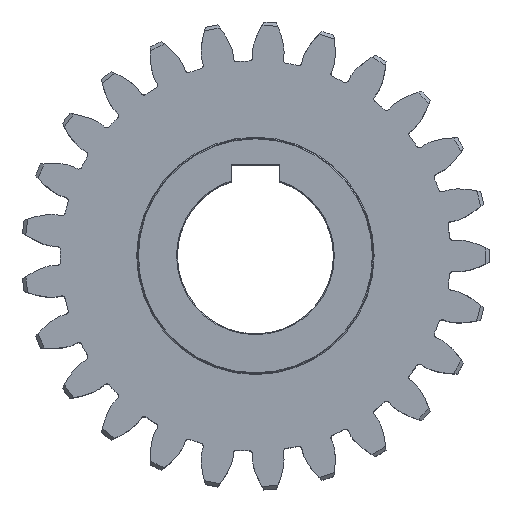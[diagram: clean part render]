
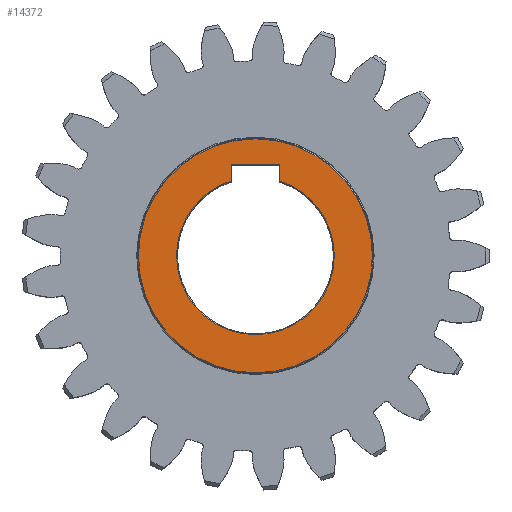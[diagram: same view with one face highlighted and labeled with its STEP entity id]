
A CAD part, top view. The second image highlights one B-rep face of the part: STEP entity #14372.
In plain terms, the highlighted planar face has unit normal (0, 0, 1).
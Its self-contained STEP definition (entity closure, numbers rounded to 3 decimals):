
#31 = CARTESIAN_POINT ( 'NONE',  ( -33.75, 0., 30. ) ) ;
#102 = LINE ( 'NONE', #13449, #8819 ) ;
#478 = DIRECTION ( 'NONE',  ( 0., 0., 1. ) ) ;
#525 = LINE ( 'NONE', #7413, #9568 ) ;
#626 = DIRECTION ( 'NONE',  ( 0., 0., 1. ) ) ;
#865 = DIRECTION ( 'NONE',  ( 1., 0., 0. ) ) ;
#1040 = EDGE_CURVE ( 'NONE', #15288, #15641, #17059, .T. ) ;
#1319 = CIRCLE ( 'NONE', #11633, 22.75 ) ;
#1617 = ORIENTED_EDGE ( 'NONE', *, *, #10812, .T. ) ;
#1640 = DIRECTION ( 'NONE',  ( 0., -1., 0. ) ) ;
#1817 = LINE ( 'NONE', #7131, #17037 ) ;
#1979 = VERTEX_POINT ( 'NONE', #31 ) ;
#1994 = VERTEX_POINT ( 'NONE', #9200 ) ;
#2255 = ORIENTED_EDGE ( 'NONE', *, *, #4409, .T. ) ;
#3141 = CARTESIAN_POINT ( 'NONE',  ( 22.75, 0., 30. ) ) ;
#3173 = DIRECTION ( 'NONE',  ( 1., 0., 0. ) ) ;
#3364 = ORIENTED_EDGE ( 'NONE', *, *, #4158, .T. ) ;
#4054 = CIRCLE ( 'NONE', #8521, 33.75 ) ;
#4158 = EDGE_CURVE ( 'NONE', #4190, #1994, #102, .T. ) ;
#4190 = VERTEX_POINT ( 'NONE', #5329 ) ;
#4409 = EDGE_CURVE ( 'NONE', #7474, #1979, #4054, .T. ) ;
#5329 = CARTESIAN_POINT ( 'NONE',  ( -7., 21.646, 30. ) ) ;
#5812 = EDGE_CURVE ( 'NONE', #6771, #15288, #1817, .T. ) ;
#6295 = DIRECTION ( 'NONE',  ( 1., 0., 0. ) ) ;
#6658 = EDGE_CURVE ( 'NONE', #15641, #12020, #15940, .T. ) ;
#6661 = DIRECTION ( 'NONE',  ( 1., 0., 0. ) ) ;
#6753 = ORIENTED_EDGE ( 'NONE', *, *, #6658, .T. ) ;
#6771 = VERTEX_POINT ( 'NONE', #12170 ) ;
#6856 = CARTESIAN_POINT ( 'NONE',  ( 0., 0., 30. ) ) ;
#7131 = CARTESIAN_POINT ( 'NONE',  ( 7., 18.7, 30. ) ) ;
#7413 = CARTESIAN_POINT ( 'NONE',  ( 7., 26.3, 30. ) ) ;
#7419 = DIRECTION ( 'NONE',  ( 0., 0., -1. ) ) ;
#7474 = VERTEX_POINT ( 'NONE', #9684 ) ;
#7955 = ORIENTED_EDGE ( 'NONE', *, *, #15152, .T. ) ;
#8521 = AXIS2_PLACEMENT_3D ( 'NONE', #10999, #626, #15096 ) ;
#8575 = CIRCLE ( 'NONE', #11379, 33.75 ) ;
#8581 = AXIS2_PLACEMENT_3D ( 'NONE', #6856, #478, #3173 ) ;
#8818 = DIRECTION ( 'NONE',  ( 1., 0., 0. ) ) ;
#8819 = VECTOR ( 'NONE', #15899, 1000. ) ;
#9134 = DIRECTION ( 'NONE',  ( 1., 0., 0. ) ) ;
#9200 = CARTESIAN_POINT ( 'NONE',  ( -7., 26.3, 30. ) ) ;
#9568 = VECTOR ( 'NONE', #865, 1000. ) ;
#9684 = CARTESIAN_POINT ( 'NONE',  ( 33.75, 0., 30. ) ) ;
#10115 = CARTESIAN_POINT ( 'NONE',  ( 7., 21.646, 30. ) ) ;
#10159 = DIRECTION ( 'NONE',  ( 0., 0., -1. ) ) ;
#10522 = DIRECTION ( 'NONE',  ( 0., 0., -1. ) ) ;
#10795 = EDGE_LOOP ( 'NONE', ( #17017, #13912, #6753, #1617, #3364, #7955 ) ) ;
#10812 = EDGE_CURVE ( 'NONE', #12020, #4190, #1319, .T. ) ;
#10999 = CARTESIAN_POINT ( 'NONE',  ( 0., 0., 30. ) ) ;
#11379 = AXIS2_PLACEMENT_3D ( 'NONE', #16098, #13145, #9134 ) ;
#11466 = CARTESIAN_POINT ( 'NONE',  ( 0., 0., 30. ) ) ;
#11633 = AXIS2_PLACEMENT_3D ( 'NONE', #15695, #7419, #8818 ) ;
#11701 = EDGE_CURVE ( 'NONE', #1979, #7474, #8575, .T. ) ;
#11924 = CARTESIAN_POINT ( 'NONE',  ( 0., 0., 30. ) ) ;
#12020 = VERTEX_POINT ( 'NONE', #12875 ) ;
#12170 = CARTESIAN_POINT ( 'NONE',  ( 7., 26.3, 30. ) ) ;
#12875 = CARTESIAN_POINT ( 'NONE',  ( -22.75, 0., 30. ) ) ;
#13145 = DIRECTION ( 'NONE',  ( 0., 0., 1. ) ) ;
#13325 = FACE_BOUND ( 'NONE', #10795, .T. ) ;
#13371 = ORIENTED_EDGE ( 'NONE', *, *, #11701, .T. ) ;
#13432 = AXIS2_PLACEMENT_3D ( 'NONE', #11466, #10159, #6295 ) ;
#13449 = CARTESIAN_POINT ( 'NONE',  ( -7., 18.7, 30. ) ) ;
#13912 = ORIENTED_EDGE ( 'NONE', *, *, #1040, .T. ) ;
#13994 = EDGE_LOOP ( 'NONE', ( #13371, #2255 ) ) ;
#14372 = ADVANCED_FACE ( 'NONE', ( #16510, #13325 ), #15125, .T. ) ;
#15096 = DIRECTION ( 'NONE',  ( 1., 0., 0. ) ) ;
#15125 = PLANE ( 'NONE',  #8581 ) ;
#15152 = EDGE_CURVE ( 'NONE', #1994, #6771, #525, .T. ) ;
#15288 = VERTEX_POINT ( 'NONE', #10115 ) ;
#15397 = AXIS2_PLACEMENT_3D ( 'NONE', #11924, #10522, #6661 ) ;
#15641 = VERTEX_POINT ( 'NONE', #3141 ) ;
#15695 = CARTESIAN_POINT ( 'NONE',  ( 0., 0., 30. ) ) ;
#15899 = DIRECTION ( 'NONE',  ( 0., 1., 0. ) ) ;
#15940 = CIRCLE ( 'NONE', #15397, 22.75 ) ;
#16098 = CARTESIAN_POINT ( 'NONE',  ( 0., 0., 30. ) ) ;
#16510 = FACE_OUTER_BOUND ( 'NONE', #13994, .T. ) ;
#17017 = ORIENTED_EDGE ( 'NONE', *, *, #5812, .T. ) ;
#17037 = VECTOR ( 'NONE', #1640, 1000. ) ;
#17059 = CIRCLE ( 'NONE', #13432, 22.75 ) ;
